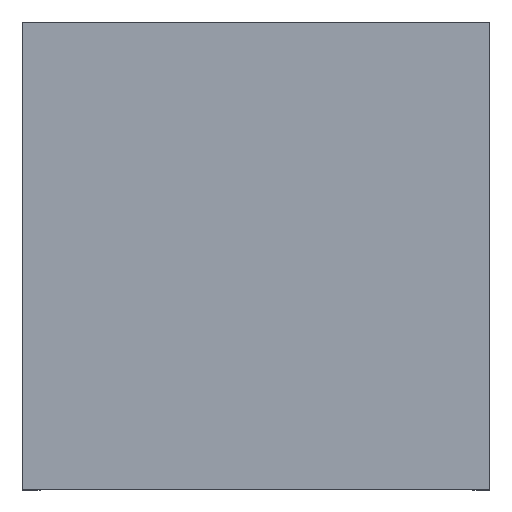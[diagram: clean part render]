
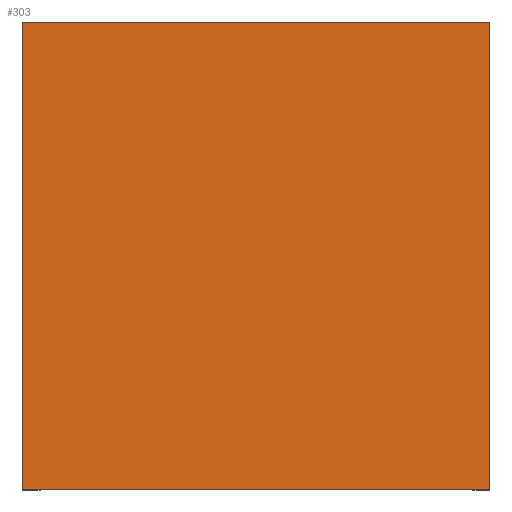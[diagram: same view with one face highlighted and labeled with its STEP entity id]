
A CAD part, top view. The second image highlights one B-rep face of the part: STEP entity #303.
In plain terms, the highlighted planar face has unit normal (0, 0, 1).
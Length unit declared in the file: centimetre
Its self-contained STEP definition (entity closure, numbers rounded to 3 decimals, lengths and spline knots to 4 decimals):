
#11 = LINE ( 'NONE', #52, #293 ) ;
#16 = DIRECTION ( 'NONE',  ( -1., 0., 0. ) ) ;
#27 = CARTESIAN_POINT ( 'NONE',  ( 0., 1000., 1000. ) ) ;
#28 = LINE ( 'NONE', #339, #471 ) ;
#47 = CARTESIAN_POINT ( 'NONE',  ( 1000., 1000., 1000. ) ) ;
#52 = CARTESIAN_POINT ( 'NONE',  ( 0., 1000., 1000. ) ) ;
#71 = VECTOR ( 'NONE', #341, 100. ) ;
#97 = EDGE_CURVE ( 'NONE', #365, #377, #28, .T. ) ;
#115 = FACE_OUTER_BOUND ( 'NONE', #446, .T. ) ;
#120 = DIRECTION ( 'NONE',  ( 1., 0., 0. ) ) ;
#143 = ORIENTED_EDGE ( 'NONE', *, *, #373, .T. ) ;
#152 = EDGE_CURVE ( 'NONE', #354, #365, #186, .T. ) ;
#178 = VERTEX_POINT ( 'NONE', #395 ) ;
#186 = LINE ( 'NONE', #27, #71 ) ;
#190 = PLANE ( 'NONE',  #217 ) ;
#207 = DIRECTION ( 'NONE',  ( 0., 1., 0. ) ) ;
#217 = AXIS2_PLACEMENT_3D ( 'NONE', #350, #472, #120 ) ;
#289 = ORIENTED_EDGE ( 'NONE', *, *, #152, .T. ) ;
#293 = VECTOR ( 'NONE', #16, 100. ) ;
#303 = ADVANCED_FACE ( 'NONE', ( #115 ), #190, .T. ) ;
#339 = CARTESIAN_POINT ( 'NONE',  ( 0., 0., 1000. ) ) ;
#341 = DIRECTION ( 'NONE',  ( 0., -1., 0. ) ) ;
#350 = CARTESIAN_POINT ( 'NONE',  ( 0., 0., 1000. ) ) ;
#354 = VERTEX_POINT ( 'NONE', #364 ) ;
#364 = CARTESIAN_POINT ( 'NONE',  ( 0., 1000., 1000. ) ) ;
#365 = VERTEX_POINT ( 'NONE', #400 ) ;
#367 = ORIENTED_EDGE ( 'NONE', *, *, #476, .T. ) ;
#368 = CARTESIAN_POINT ( 'NONE',  ( 1000., 0., 1000. ) ) ;
#370 = ORIENTED_EDGE ( 'NONE', *, *, #97, .T. ) ;
#373 = EDGE_CURVE ( 'NONE', #377, #178, #406, .T. ) ;
#374 = DIRECTION ( 'NONE',  ( 1., 0., 0. ) ) ;
#377 = VERTEX_POINT ( 'NONE', #368 ) ;
#395 = CARTESIAN_POINT ( 'NONE',  ( 1000., 1000., 1000. ) ) ;
#400 = CARTESIAN_POINT ( 'NONE',  ( 0., 0., 1000. ) ) ;
#406 = LINE ( 'NONE', #47, #408 ) ;
#408 = VECTOR ( 'NONE', #207, 100. ) ;
#446 = EDGE_LOOP ( 'NONE', ( #289, #370, #143, #367 ) ) ;
#471 = VECTOR ( 'NONE', #374, 100. ) ;
#472 = DIRECTION ( 'NONE',  ( 0., 0., 1. ) ) ;
#476 = EDGE_CURVE ( 'NONE', #178, #354, #11, .T. ) ;
